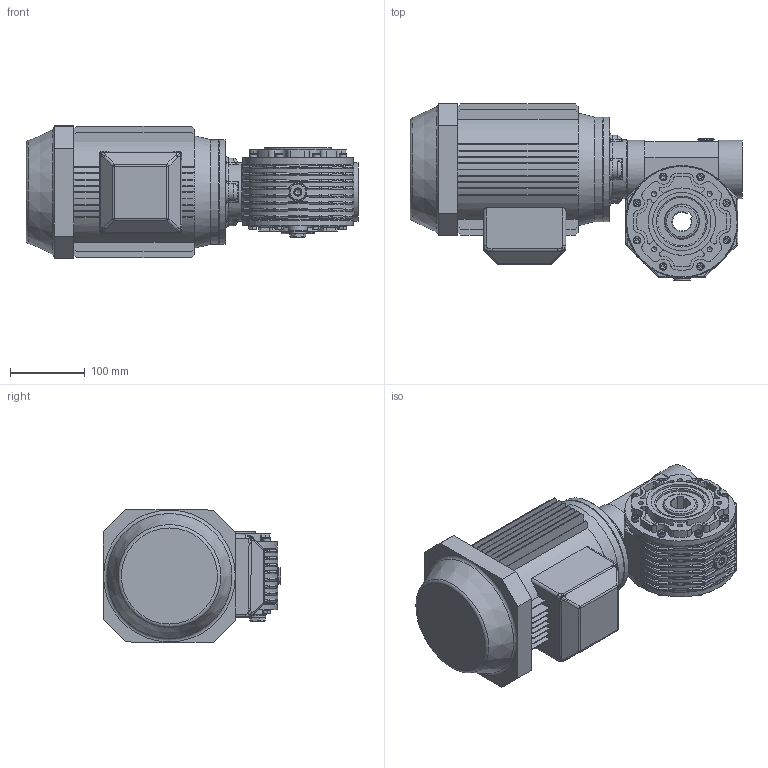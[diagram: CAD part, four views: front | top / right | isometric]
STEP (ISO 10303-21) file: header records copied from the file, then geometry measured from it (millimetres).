
FILE_DESCRIPTION((''),'2;1');
FILE_NAME('Y:\Archivi Inventor\Prog_01\GRAND_30\Figurini\MRV30 sito\90L\MRV30_FP1_90L_B14.stp','2013-02-06T11:19:17',('tech3'),(''),'Autodesk Inventor 2013','Autodesk Inventor 2013','');
FILE_SCHEMA(('AUTOMOTIVE_DESIGN { 1 0 10303 214 1 1 1 1 }'));
Length unit declared in the file: millimetre
Products named in the file (18): MRV30_90s_90L_B14; MRV30; 0103001-A2 fig; 0103008.A1 fig F=25; PARAOLIO 45x65x10; RCA_52x7; Guarnizione 3_8 GAS; Tappo 3_8 GAS_esagn_incsst; 0103029; DIN EN 24017 M6 x 20; 0103028; 0103002-A0 fig; DIN EN ISO 4762 M6 x 16; 0103004.A2 fig; Tappo3_8 GAS; UNI 5931 M 8 x  25; 0103006; motori B14 90L
Assembly tree (39 placements, depth 3):
  MRV30_90s_90L_B14
    MRV30
      0103001-A2 fig
      0103008.A1 fig F=25
      PARAOLIO 45x65x10  x2
      RCA_52x7
      Guarnizione 3_8 GAS  x3
      Tappo 3_8 GAS_esagn_incsst  x2
      0103029  x2
      DIN EN 24017 M6 x 20  x8
      0103028
      0103002-A0 fig
      DIN EN ISO 4762 M6 x 16  x8
      0103004.A2 fig
      Tappo3_8 GAS
      UNI 5931 M 8 x  25  x4
    0103006
    motori B14 90L
Bounding box: 444.4 x 237.74 x 177.35 mm (x, y, z)
Volume: 7383853.2 mm3; surface area: 780588.4 mm2
Topology: 38 solids, 41 shells, 1983 faces, 4816 edges, 2900 vertices
Faces by surface type: plane 838, cylinder 667, torus 185, bspline 146, cone 123, sphere 24
Full cylindrical faces by diameter (mm): 2 x2, 4.917 x16, 6 x16, 6.5 x32, 6.647 x12, 8 x6, 8.5 x8, 8.88 x8, 9 x4, 9.5 x8, 10 x8, 11 x8, 13 x4, 13.046 x1, 14.95 x3, 16.3 x3, 16.5 x2, 22 x6, 24 x1, 25 x1, 43 x1, 45 x6, 45.76 x1, 50.881 x2, 52 x6, 55 x1, 60.5 x2, 65 x4, 77 x1, 78 x2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
Entity records: 56897 total; most frequent: CARTESIAN_POINT 18432, DIRECTION 8116, ORIENTED_EDGE 7512, EDGE_CURVE 3756, AXIS2_PLACEMENT_3D 3202, VERTEX_POINT 2409, EDGE_LOOP 2010, VECTOR 1712
